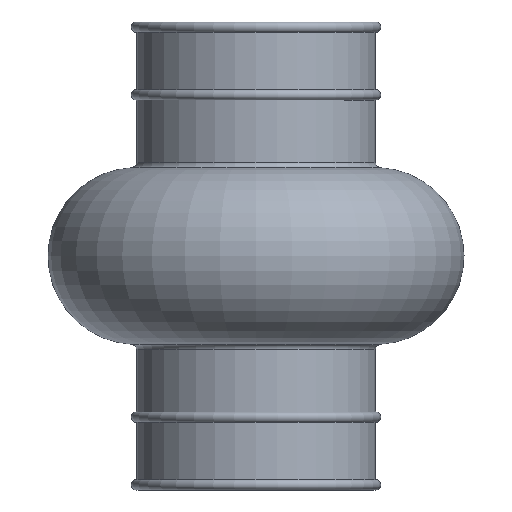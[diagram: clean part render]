
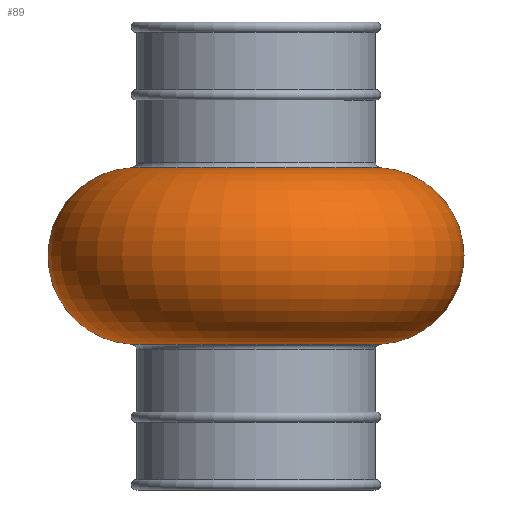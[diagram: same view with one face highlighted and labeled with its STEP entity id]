
A CAD part, left-side view. The second image highlights one B-rep face of the part: STEP entity #89.
In plain terms, the highlighted toroidal (fillet/blend) face has major radius 11.5 mm and minor radius 8.5 mm.
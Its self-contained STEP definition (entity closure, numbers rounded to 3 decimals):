
#34 = AXIS2_PLACEMENT_3D ( 'NONE', #416, #214, #484 ) ;
#46 = AXIS2_PLACEMENT_3D ( 'NONE', #285, #616, #547 ) ;
#67 = DIRECTION ( 'NONE',  ( 0., 0., 1. ) ) ;
#89 = ADVANCED_FACE ( 'NONE', ( #307 ), #126, .T. ) ;
#126 = TOROIDAL_SURFACE ( 'NONE', #787, 11.5, 8.5 ) ;
#144 = EDGE_CURVE ( 'NONE', #240, #437, #863, .T. ) ;
#155 = CIRCLE ( 'NONE', #34, 8.5 ) ;
#214 = DIRECTION ( 'NONE',  ( -1., 0., 0. ) ) ;
#240 = VERTEX_POINT ( 'NONE', #738 ) ;
#270 = ORIENTED_EDGE ( 'NONE', *, *, #372, .F. ) ;
#285 = CARTESIAN_POINT ( 'NONE',  ( 0., -11.5, 0. ) ) ;
#307 = FACE_OUTER_BOUND ( 'NONE', #564, .T. ) ;
#311 = DIRECTION ( 'NONE',  ( 0., 1., 0. ) ) ;
#358 = CARTESIAN_POINT ( 'NONE',  ( 0., 11.972, 8.487 ) ) ;
#363 = CARTESIAN_POINT ( 'NONE',  ( 0., -11.972, 8.487 ) ) ;
#367 = CARTESIAN_POINT ( 'NONE',  ( 0., -11.972, -8.487 ) ) ;
#372 = EDGE_CURVE ( 'NONE', #706, #437, #693, .T. ) ;
#381 = EDGE_CURVE ( 'NONE', #506, #240, #155, .T. ) ;
#416 = CARTESIAN_POINT ( 'NONE',  ( 0., 11.5, 0. ) ) ;
#432 = CIRCLE ( 'NONE', #458, 11.972 ) ;
#437 = VERTEX_POINT ( 'NONE', #367 ) ;
#438 = ORIENTED_EDGE ( 'NONE', *, *, #833, .T. ) ;
#458 = AXIS2_PLACEMENT_3D ( 'NONE', #739, #621, #575 ) ;
#465 = CARTESIAN_POINT ( 'NONE',  ( 0., 0., -8.487 ) ) ;
#484 = DIRECTION ( 'NONE',  ( 0., 0., 1. ) ) ;
#506 = VERTEX_POINT ( 'NONE', #358 ) ;
#513 = ORIENTED_EDGE ( 'NONE', *, *, #381, .T. ) ;
#547 = DIRECTION ( 'NONE',  ( 0., 1., 0. ) ) ;
#564 = EDGE_LOOP ( 'NONE', ( #270, #438, #513, #793 ) ) ;
#575 = DIRECTION ( 'NONE',  ( 0., 1., 0. ) ) ;
#616 = DIRECTION ( 'NONE',  ( 1., 0., 0. ) ) ;
#621 = DIRECTION ( 'NONE',  ( 0., 0., -1. ) ) ;
#639 = CARTESIAN_POINT ( 'NONE',  ( 0., 0., 0. ) ) ;
#693 = CIRCLE ( 'NONE', #46, 8.5 ) ;
#704 = DIRECTION ( 'NONE',  ( 0., 0., -1. ) ) ;
#706 = VERTEX_POINT ( 'NONE', #363 ) ;
#728 = AXIS2_PLACEMENT_3D ( 'NONE', #465, #67, #792 ) ;
#738 = CARTESIAN_POINT ( 'NONE',  ( 0., 11.972, -8.487 ) ) ;
#739 = CARTESIAN_POINT ( 'NONE',  ( 0., 0., 8.487 ) ) ;
#787 = AXIS2_PLACEMENT_3D ( 'NONE', #639, #704, #311 ) ;
#792 = DIRECTION ( 'NONE',  ( 0., -1., 0. ) ) ;
#793 = ORIENTED_EDGE ( 'NONE', *, *, #144, .T. ) ;
#833 = EDGE_CURVE ( 'NONE', #706, #506, #432, .T. ) ;
#863 = CIRCLE ( 'NONE', #728, 11.972 ) ;
